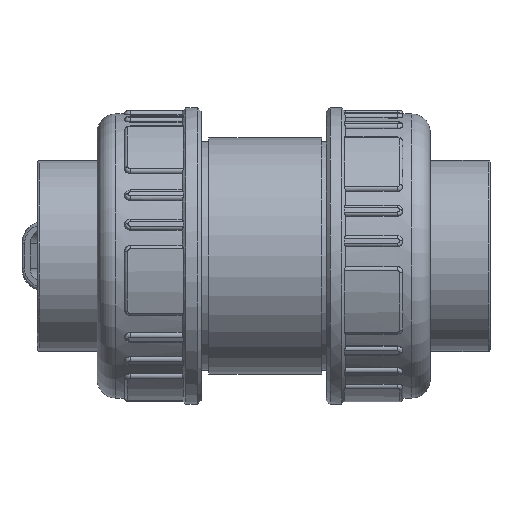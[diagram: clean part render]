
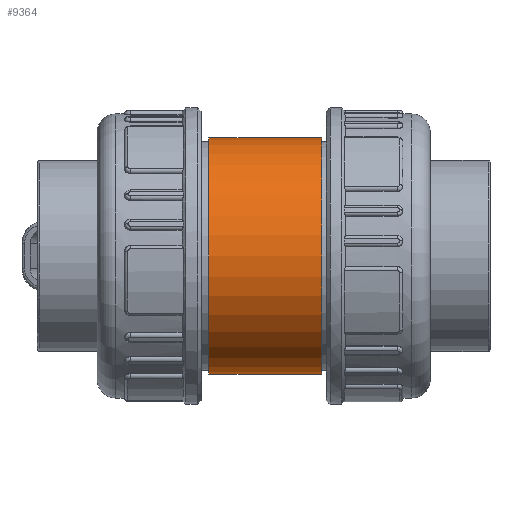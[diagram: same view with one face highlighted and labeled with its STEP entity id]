
A CAD part, left-side view. The second image highlights one B-rep face of the part: STEP entity #9364.
In plain terms, the highlighted cylindrical face has radius 31.85 mm (diameter 63.7 mm), a full revolution.
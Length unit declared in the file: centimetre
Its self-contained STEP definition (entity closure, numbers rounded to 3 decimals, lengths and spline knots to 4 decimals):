
#1557=B_SPLINE_CURVE_WITH_KNOTS('',3,(#67200,#67201,#67202,#67203,#67204,
#67205,#67206,#67207,#67208,#67209,#67210,#67211,#67212,#67213,#67214,#67215,
#67216,#67217,#67218,#67219,#67220,#67221,#67222,#67223,#67224,#67225,#67226,
#67227,#67228,#67229,#67230,#67231,#67232,#67233,#67234,#67235,#67236,#67237,
#67238,#67239,#67240,#67241,#67242,#67243,#67244,#67245,#67246,#67247,#67248,
#67249),.UNSPECIFIED.,.T.,.F.,(4,2,2,2,2,2,2,2,2,2,2,2,2,2,2,2,2,2,2,2,
2,2,2,2,4),(0.,0.2689,0.5378,1.0756,1.6126,
1.8811,2.1496,2.4181,2.6866,3.2235,
3.7614,4.0303,4.2992,4.5681,4.837,
5.3748,5.9118,6.1803,6.4488,6.7173,
6.9857,7.5227,8.0605,8.3294,8.5983),
 .UNSPECIFIED.);
#1717=CYLINDRICAL_SURFACE('',#10194,3.185);
#1785=FACE_BOUND('',#2891,.T.);
#1786=FACE_BOUND('',#2892,.T.);
#2315=FACE_OUTER_BOUND('',#2890,.T.);
#2890=EDGE_LOOP('',(#8113));
#2891=EDGE_LOOP('',(#8114));
#2892=EDGE_LOOP('',(#8115));
#3351=CIRCLE('',#10195,3.185);
#3352=CIRCLE('',#10196,3.185);
#4185=VERTEX_POINT('',#67199);
#4191=VERTEX_POINT('',#67306);
#4192=VERTEX_POINT('',#67308);
#5492=EDGE_CURVE('',#4185,#4185,#1557,.T.);
#5503=EDGE_CURVE('',#4191,#4191,#3351,.T.);
#5504=EDGE_CURVE('',#4192,#4192,#3352,.T.);
#8113=ORIENTED_EDGE('',*,*,#5503,.F.);
#8114=ORIENTED_EDGE('',*,*,#5492,.T.);
#8115=ORIENTED_EDGE('',*,*,#5504,.T.);
#9364=ADVANCED_FACE('',(#2315,#1785,#1786),#1717,.T.);
#10194=AXIS2_PLACEMENT_3D('',#67305,#12346,#12347);
#10195=AXIS2_PLACEMENT_3D('',#67307,#12348,#12349);
#10196=AXIS2_PLACEMENT_3D('',#67309,#12350,#12351);
#12346=DIRECTION('center_axis',(0.,-1.,0.));
#12347=DIRECTION('ref_axis',(-1.,0.,0.));
#12348=DIRECTION('center_axis',(0.,-1.,0.));
#12349=DIRECTION('ref_axis',(1.,0.,0.));
#12350=DIRECTION('center_axis',(0.,-1.,0.));
#12351=DIRECTION('ref_axis',(1.,0.,0.));
#67199=CARTESIAN_POINT('',(2.8584,0.,-1.405));
#67200=CARTESIAN_POINT('Ctrl Pts',(2.8584,0.,-1.405));
#67201=CARTESIAN_POINT('Ctrl Pts',(2.8584,-0.0896,
-1.405));
#67202=CARTESIAN_POINT('Ctrl Pts',(2.8627,-0.1819,
-1.3963));
#67203=CARTESIAN_POINT('Ctrl Pts',(2.8801,-0.3644,
-1.3601));
#67204=CARTESIAN_POINT('Ctrl Pts',(2.8931,-0.4548,
-1.3326));
#67205=CARTESIAN_POINT('Ctrl Pts',(2.9412,-0.7137,-1.2246));
#67206=CARTESIAN_POINT('Ctrl Pts',(2.9855,-0.87,
-1.117));
#67207=CARTESIAN_POINT('Ctrl Pts',(3.0666,-1.1168,-0.8702));
#67208=CARTESIAN_POINT('Ctrl Pts',(3.1089,-1.2246,-0.7138));
#67209=CARTESIAN_POINT('Ctrl Pts',(3.1536,-1.3327,-0.4547));
#67210=CARTESIAN_POINT('Ctrl Pts',(3.1654,-1.3601,-0.3643));
#67211=CARTESIAN_POINT('Ctrl Pts',(3.1811,-1.3963,-0.1817));
#67212=CARTESIAN_POINT('Ctrl Pts',(3.185,-1.405,-0.0895));
#67213=CARTESIAN_POINT('Ctrl Pts',(3.185,-1.405,0.0895));
#67214=CARTESIAN_POINT('Ctrl Pts',(3.1811,-1.3963,0.1817));
#67215=CARTESIAN_POINT('Ctrl Pts',(3.1654,-1.3601,0.3643));
#67216=CARTESIAN_POINT('Ctrl Pts',(3.1536,-1.3327,0.4547));
#67217=CARTESIAN_POINT('Ctrl Pts',(3.1089,-1.2246,0.7138));
#67218=CARTESIAN_POINT('Ctrl Pts',(3.0666,-1.1168,0.8702));
#67219=CARTESIAN_POINT('Ctrl Pts',(2.9855,-0.87,
1.117));
#67220=CARTESIAN_POINT('Ctrl Pts',(2.9412,-0.7137,1.2246));
#67221=CARTESIAN_POINT('Ctrl Pts',(2.8931,-0.4548,
1.3326));
#67222=CARTESIAN_POINT('Ctrl Pts',(2.8801,-0.3644,
1.3601));
#67223=CARTESIAN_POINT('Ctrl Pts',(2.8627,-0.1819,
1.3963));
#67224=CARTESIAN_POINT('Ctrl Pts',(2.8584,-0.0896,
1.405));
#67225=CARTESIAN_POINT('Ctrl Pts',(2.8584,0.0896,
1.405));
#67226=CARTESIAN_POINT('Ctrl Pts',(2.8627,0.1819,1.3963));
#67227=CARTESIAN_POINT('Ctrl Pts',(2.8801,0.3644,1.3601));
#67228=CARTESIAN_POINT('Ctrl Pts',(2.8931,0.4548,1.3326));
#67229=CARTESIAN_POINT('Ctrl Pts',(2.9412,0.7137,1.2246));
#67230=CARTESIAN_POINT('Ctrl Pts',(2.9855,0.87,1.117));
#67231=CARTESIAN_POINT('Ctrl Pts',(3.0666,1.1168,0.8702));
#67232=CARTESIAN_POINT('Ctrl Pts',(3.1089,1.2246,0.7138));
#67233=CARTESIAN_POINT('Ctrl Pts',(3.1536,1.3327,0.4547));
#67234=CARTESIAN_POINT('Ctrl Pts',(3.1654,1.3601,0.3643));
#67235=CARTESIAN_POINT('Ctrl Pts',(3.1811,1.3963,0.1817));
#67236=CARTESIAN_POINT('Ctrl Pts',(3.185,1.405,0.0895));
#67237=CARTESIAN_POINT('Ctrl Pts',(3.185,1.405,-0.0895));
#67238=CARTESIAN_POINT('Ctrl Pts',(3.1811,1.3963,-0.1817));
#67239=CARTESIAN_POINT('Ctrl Pts',(3.1654,1.3601,-0.3643));
#67240=CARTESIAN_POINT('Ctrl Pts',(3.1536,1.3327,-0.4547));
#67241=CARTESIAN_POINT('Ctrl Pts',(3.1089,1.2246,-0.7138));
#67242=CARTESIAN_POINT('Ctrl Pts',(3.0666,1.1168,-0.8702));
#67243=CARTESIAN_POINT('Ctrl Pts',(2.9855,0.87,-1.117));
#67244=CARTESIAN_POINT('Ctrl Pts',(2.9412,0.7137,-1.2246));
#67245=CARTESIAN_POINT('Ctrl Pts',(2.8931,0.4548,-1.3326));
#67246=CARTESIAN_POINT('Ctrl Pts',(2.8801,0.3644,-1.3601));
#67247=CARTESIAN_POINT('Ctrl Pts',(2.8627,0.1819,-1.3963));
#67248=CARTESIAN_POINT('Ctrl Pts',(2.8584,0.0896,
-1.405));
#67249=CARTESIAN_POINT('Ctrl Pts',(2.8584,0.,
-1.405));
#67305=CARTESIAN_POINT('Origin',(0.,-0.04,0.));
#67306=CARTESIAN_POINT('',(-3.185,-1.56,0.));
#67307=CARTESIAN_POINT('Origin',(0.,-1.56,0.));
#67308=CARTESIAN_POINT('',(-3.185,1.48,0.));
#67309=CARTESIAN_POINT('Origin',(0.,1.48,0.));
